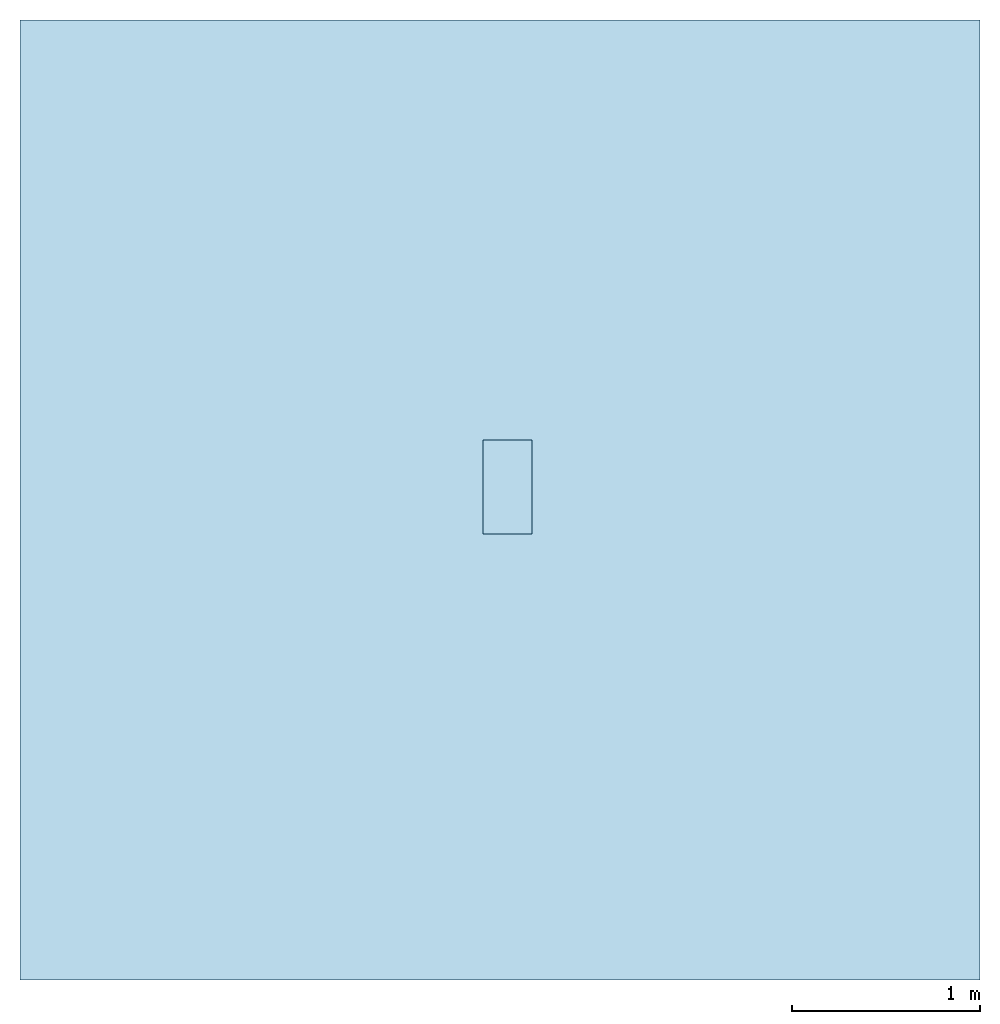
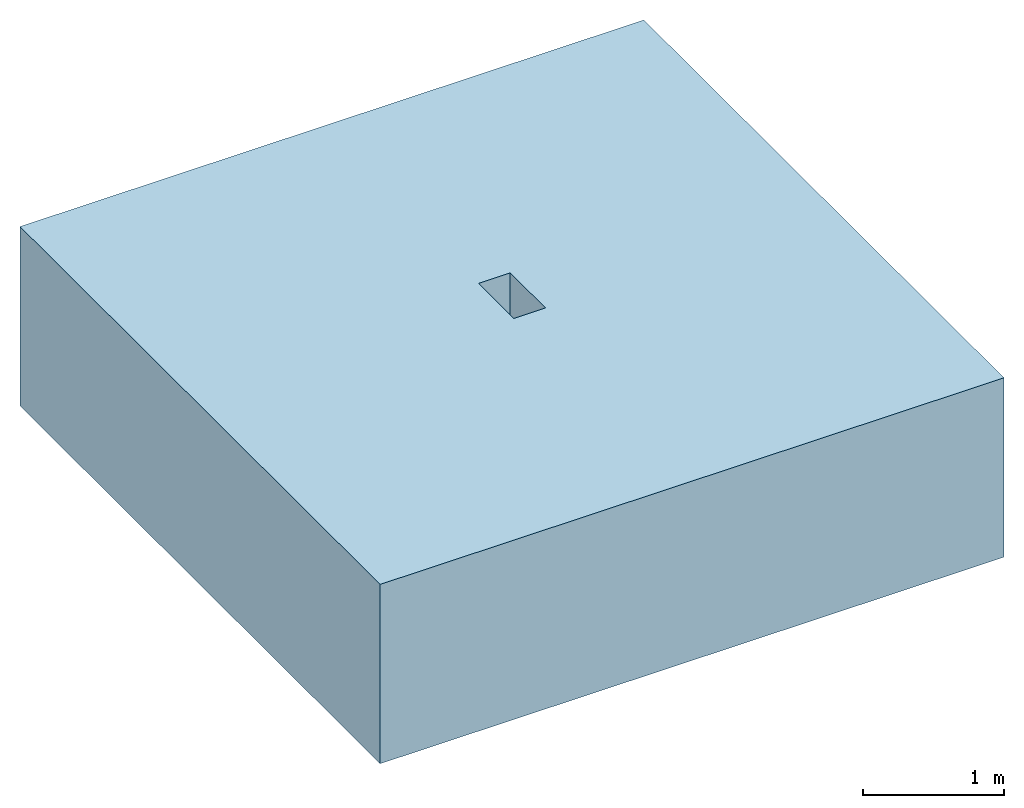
# One storey: 1 slab, 2 openings.
"""IFC2X3 building model written with IfcOpenShell, lengths in millimetres."""

import ifcopenshell
import ifcopenshell.guid

model = None  # the IFC model being written
_history = None  # IfcOwnerHistory: only IFC2X3 demands one
_inside = {}  # id of a spatial element -> (the spatial element, [elements in it])
_under = {}  # id of a project, library or spatial element -> (it, [spatial elements below it])
_declared = {}  # id of a project -> (the project, [libraries it declares])
_typed = {}  # id of a type object -> (the type object, [elements of that type])
_made_of = {}  # id of a material, layer set ... -> (it, [elements and type objects made of it])


def new_model(schema):
    """Start an empty IFC model of exactly this schema.

    Asked for "IFC4X3", IfcOpenShell would pick the latest addendum, in which some entities
    have other attributes; the version numbers below select the first issue.
    IFC2X3 requires an IfcOwnerHistory on every rooted entity: one is made here for all.
    """
    global model, _history
    if schema == "IFC4X3":
        model = ifcopenshell.file(schema_version=(4, 3, 0, 0))
    else:
        model = ifcopenshell.file(schema=schema)
    _inside.clear()
    _under.clear()
    _declared.clear()
    _typed.clear()
    _made_of.clear()
    _history = None
    if model.schema == "IFC2X3":
        org = make("IfcOrganization", Name="unknown")
        user = make(
            "IfcPersonAndOrganization",
            ThePerson=make("IfcPerson", FamilyName="unknown"),
            TheOrganization=org,
        )
        app = make(
            "IfcApplication",
            ApplicationDeveloper=org,
            Version="unknown",
            ApplicationFullName="unknown",
            ApplicationIdentifier="unknown",
        )
        _history = make(
            "IfcOwnerHistory",
            OwningUser=user,
            OwningApplication=app,
            ChangeAction="ADDED",
            CreationDate=0,
        )
    return model


def make(cls, **values):
    """One entity of the class cls with the attributes given. An attribute that is None is left unset."""
    return model.create_entity(
        cls, **{name: value for name, value in values.items() if value is not None}
    )


def entity(cls, *values):
    """Any entity or typed value of the class cls, its attributes in the order of the schema. None: left unset."""
    e = model.create_entity(cls)
    for i, value in enumerate(values):
        if value is not None:
            e[i] = value
    return e


def rooted(cls, **values):
    """An entity with a GlobalId (a new one), such as an element, a storey or a relation."""
    return make(cls, GlobalId=ifcopenshell.guid.new(), OwnerHistory=_history, **values)


def si_unit(unit_type, name, prefix=None):
    """IfcSIUnit, for example si_unit("LENGTHUNIT", "METRE", prefix="MILLI")."""
    return make("IfcSIUnit", UnitType=unit_type, Prefix=prefix, Name=name)


def converted_unit(unit_type, name, factor, base, dimensions=None, offset=None):
    """IfcConversionBasedUnit, such as the inch: factor (a typed value) times the base unit."""
    return make(
        "IfcConversionBasedUnit"
        if offset is None
        else "IfcConversionBasedUnitWithOffset",
        ConversionOffset=offset,
        Dimensions=None
        if dimensions is None
        else entity("IfcDimensionalExponents", *dimensions),
        UnitType=unit_type,
        Name=name,
        ConversionFactor=make(
            "IfcMeasureWithUnit", ValueComponent=factor, UnitComponent=base
        ),
    )


def assignment(units):
    """IfcUnitAssignment: the units of a project."""
    return None if units is None else make("IfcUnitAssignment", Units=units)


def point(xyz):
    """IfcCartesianPoint."""
    return None if xyz is None else make("IfcCartesianPoint", Coordinates=xyz)


def direction(xyz):
    """IfcDirection."""
    return None if xyz is None else make("IfcDirection", DirectionRatios=xyz)


def frame(location, z_axis=None, x_axis=None):
    """IfcAxis2Placement3D, a coordinate frame: its origin and axes. An axis left out is left unset."""
    return make(
        "IfcAxis2Placement3D",
        Location=point(location),
        Axis=direction(z_axis),
        RefDirection=direction(x_axis),
    )


def frame_2d(location, x_axis=None):
    """IfcAxis2Placement2D, a coordinate frame in the plane: its origin and x axis."""
    return make(
        "IfcAxis2Placement2D", Location=point(location), RefDirection=direction(x_axis)
    )


def origin():
    """The frame at (0, 0, 0) with its axes left unset."""
    return frame((0.0, 0.0, 0.0))


def origin_2d_with_axis():
    """The frame at (0, 0) in the plane with the x axis (1, 0) written out."""
    return frame_2d((0.0, 0.0), x_axis=(1.0, 0.0))


def place(relative_to, where):
    """IfcLocalPlacement: puts the frame where relative to a parent placement (None: the world)."""
    return make(
        "IfcLocalPlacement", PlacementRelTo=relative_to, RelativePlacement=where
    )


def context(
    kind, dimensions, precision=None, world=None, true_north=None, identifier=None
):
    """IfcGeometricRepresentationContext, for example the 3D "Model" context."""
    return make(
        "IfcGeometricRepresentationContext",
        ContextIdentifier=identifier,
        ContextType=kind,
        CoordinateSpaceDimension=dimensions,
        Precision=precision,
        WorldCoordinateSystem=world,
        TrueNorth=true_north,
    )


def subcontext(parent, identifier, kind, view, scale=None):
    """IfcGeometricRepresentationSubContext, for example "Body" below "Model"."""
    return make(
        "IfcGeometricRepresentationSubContext",
        ContextIdentifier=identifier,
        ContextType=kind,
        ParentContext=parent,
        TargetScale=scale,
        TargetView=view,
    )


def project(units=None, contexts=None):
    """IfcProject with its units and contexts."""
    return rooted(
        "IfcProject",
        Name="project",
        RepresentationContexts=contexts,
        UnitsInContext=assignment(units),
    )


def spatial(cls, under=None, at=None, **own):
    """A site, building, storey or space (cls), placed at a placement, below another one or the project."""
    s = rooted(cls, ObjectPlacement=at, **own)
    if under is not None:
        _under.setdefault(under.id(), (under, []))[1].append(s)
    return s


def profile(cls, at=None, kind="AREA", **sizes):
    """A parametric profile (cls). Its sizes go by their IFC names, for example OverallWidth=200.0."""
    return make(cls, ProfileType=kind, Position=at, **sizes)


def rectangle(**sizes):
    """IfcRectangleProfileDef."""
    return profile("IfcRectangleProfileDef", **sizes)


def circle(**sizes):
    """IfcCircleProfileDef."""
    return profile("IfcCircleProfileDef", **sizes)


def extrude(swept, where, along, depth):
    """IfcExtrudedAreaSolid: the profile swept, set in the frame where, extruded along a direction by depth."""
    return make(
        "IfcExtrudedAreaSolid",
        SweptArea=swept,
        Position=where,
        ExtrudedDirection=direction(along),
        Depth=depth,
    )


def shape(context_of_items, identifier, shape_type, items):
    """IfcShapeRepresentation: the items that make up one representation, for example the "Body"."""
    return make(
        "IfcShapeRepresentation",
        ContextOfItems=context_of_items,
        RepresentationIdentifier=identifier,
        RepresentationType=shape_type,
        Items=items,
    )


def material(Name=None, Category=None):
    """IfcMaterial."""
    return make("IfcMaterial", Name=Name, Category=Category)


def layer(
    of_material, thickness, ventilated=None, Name=None, Category=None, Priority=None
):
    """IfcMaterialLayer: one layer of a wall or slab, of a material (None: an air gap)."""
    return make(
        "IfcMaterialLayer",
        Material=of_material,
        LayerThickness=thickness,
        IsVentilated=ventilated,
        Name=Name,
        Category=Category,
        Priority=Priority,
    )


def layer_set(layers, Name=None):
    """IfcMaterialLayerSet."""
    return make("IfcMaterialLayerSet", MaterialLayers=layers, LayerSetName=Name)


def layer_usage(for_layer_set, set_direction, sense, offset, extent=None):
    """IfcMaterialLayerSetUsage: how a layer set lies in its element."""
    return make(
        "IfcMaterialLayerSetUsage",
        ForLayerSet=for_layer_set,
        LayerSetDirection=set_direction,
        DirectionSense=sense,
        OffsetFromReferenceLine=offset,
        ReferenceExtent=extent,
    )


def made_of(thing, what):
    """Note that an element or type object is made of a material, layer set ...; save() writes the relation."""
    if what is not None:
        _made_of.setdefault(what.id(), (what, []))[1].append(thing)
    return thing


def element(
    cls,
    number,
    at=None,
    inside=None,
    cuts=None,
    type_object=None,
    material=None,
    context=None,
    identifier="Body",
    shape_type=None,
    held_by="IfcProductDefinitionShape",
    body=None,
    shapes=None,
    **own,
):
    """One element of the class cls, such as IfcWall. Its Tag is "e" and its number.

    at: its placement. inside: the storey or other place that contains it. cuts: it is an
    opening in that element (IfcRelVoidsElement). A single representation is given by context,
    identifier, shape_type and body (its items); several are given by shapes. held_by: the class
    of the entity that holds the representations. save() writes the other relations.
    """
    e = rooted(cls, Tag="e%d" % number, ObjectPlacement=at, **own)
    if body is not None:
        shapes = [shape(context, identifier, shape_type, body)]
    if shapes is not None:
        e.Representation = make(held_by, Representations=shapes)
    if inside is not None:
        _inside.setdefault(inside.id(), (inside, []))[1].append(e)
    if cuts is not None:
        rooted(
            "IfcRelVoidsElement", RelatingBuildingElement=cuts, RelatedOpeningElement=e
        )
    if type_object is not None:
        _typed.setdefault(type_object.id(), (type_object, []))[1].append(e)
    return made_of(e, material)


def aggregate(whole, parts):
    """IfcRelAggregates: a whole, such as a stair, and the parts it consists of."""
    return rooted("IfcRelAggregates", RelatingObject=whole, RelatedObjects=parts)


def save(model, path):
    """Write the relations noted so far, then the file.

    IfcRelAggregates (storeys below a building ...), IfcRelContainedInSpatialStructure (elements
    in a storey), IfcRelDefinesByType, IfcRelAssociatesMaterial and IfcRelDeclares: one each for
    every whole, place, type object, material and project.
    """
    for whole, parts in _under.values():
        aggregate(whole, parts)
    for where, things in _inside.values():
        rooted(
            "IfcRelContainedInSpatialStructure",
            RelatedElements=things,
            RelatingStructure=where,
        )
    for kind, things in _typed.values():
        rooted("IfcRelDefinesByType", RelatedObjects=things, RelatingType=kind)
    for what, things in _made_of.values():
        rooted("IfcRelAssociatesMaterial", RelatedObjects=things, RelatingMaterial=what)
    for by, libraries in _declared.values():
        rooted("IfcRelDeclares", RelatingContext=by, RelatedDefinitions=libraries)
    model.write(path)


model = new_model("IFC2X3")

# Units and contexts
model_context = context("Model", 3, precision=1e-06, world=origin(), true_north=direction((2.0, 6.12303176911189e-17, 1.0)))
context_of_model = context(None, 3, precision=1e-06, world=origin(), true_north=direction((2.0, 6.12303176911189e-17, 1.0)))
body_context = subcontext(model_context, "Body", "Model", "MODEL_VIEW")
ifc_project = project(units=[si_unit("LENGTHUNIT", "METRE", prefix="MILLI"), si_unit("AREAUNIT", "SQUARE_METRE", prefix="MILLI"), si_unit("VOLUMEUNIT", "CUBIC_METRE", prefix="MILLI"), converted_unit("PLANEANGLEUNIT", "DEGREE", entity("IfcRatioMeasure", 0.0174532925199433), si_unit("PLANEANGLEUNIT", "RADIAN"), dimensions=[0, 0, 0, 0, 0, 0, 0]), si_unit("TIMEUNIT", "SECOND")], contexts=[model_context, context_of_model])

# Site, building, storey
site_placement = place(None, origin())
site = spatial("IfcSite", under=ifc_project, at=site_placement, Name="Default", CompositionType="ELEMENT")
building_placement = place(site_placement, origin())
building = spatial("IfcBuilding", under=site, at=building_placement, CompositionType="ELEMENT")
storey_placement = place(building_placement, frame((0.0, 0.0, -4300.0)))
storey = spatial("IfcBuildingStorey", under=building, at=storey_placement, Name="T.O. Footing", CompositionType="ELEMENT", Elevation=-4300.0)

# Slab, openings
ifc_material_1 = material(Name="Grass")
ifc_layer_1 = layer(ifc_material_1, 50.0)
ifc_material_2 = material(Name="Earth")
ifc_layer_2 = layer(ifc_material_2, 1500.0)
ifc_layer_set = layer_set([ifc_layer_1, ifc_layer_2], Name="Floor:Generic Floor - 400mm")
ifc_layer_usage = layer_usage(ifc_layer_set, "AXIS3", "POSITIVE", 0.0)
slab_placement = place(storey_placement, frame((-74285.1443120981, 26316.7493510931, -1550.0)))
slab = element("IfcSlab", 1, at=slab_placement, inside=storey, material=ifc_layer_usage, Name="Floor:Generic Floor - 400mm", ObjectType="Floor:Generic Floor - 400mm", PredefinedType="FLOOR", context=body_context, shape_type="SweptSolid", body=[
    extrude(rectangle(XDim=5100.0, YDim=5100.0, at=frame_2d((0.0, 0.0), x_axis=(0.0, -1.0))), frame((2550.0, 2550.0, 1550.0), z_axis=(0.0, 0.0, -1.0), x_axis=(-1.0, 0.0, 0.0)), (0.0, 0.0, 1.0), 1550.0),
])
opening_1_placement = place(slab_placement, origin())
element("IfcOpeningElement", 2, at=opening_1_placement, cuts=slab, ObjectType="Recess", context=body_context, shape_type="SweptSolid", body=[
    extrude(circle(Radius=77.9999330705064, at=origin_2d_with_axis()), frame((2590.16673981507, 2394.75893820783, -4200.0), z_axis=(0.0, 1.0, 0.0), x_axis=(1.0, 0.0, 0.0)), (0.0, 0.0, 1.0), 125.000000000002),
])
opening_2_placement = place(slab_placement, origin())
element("IfcOpeningElement", 3, at=opening_2_placement, cuts=slab, ObjectType="Recess", context=body_context, shape_type="SweptSolid", body=[
    extrude(rectangle(XDim=259.999999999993, YDim=499.999999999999, at=origin_2d_with_axis()), frame((2590.16673981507, 2619.75893820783, 1050.0)), (0.0, 0.0, 1.0), 500.0),
])

save(model, "model.ifc")
